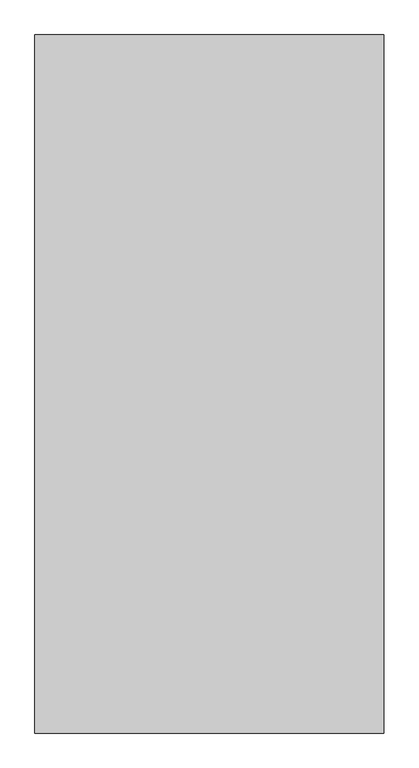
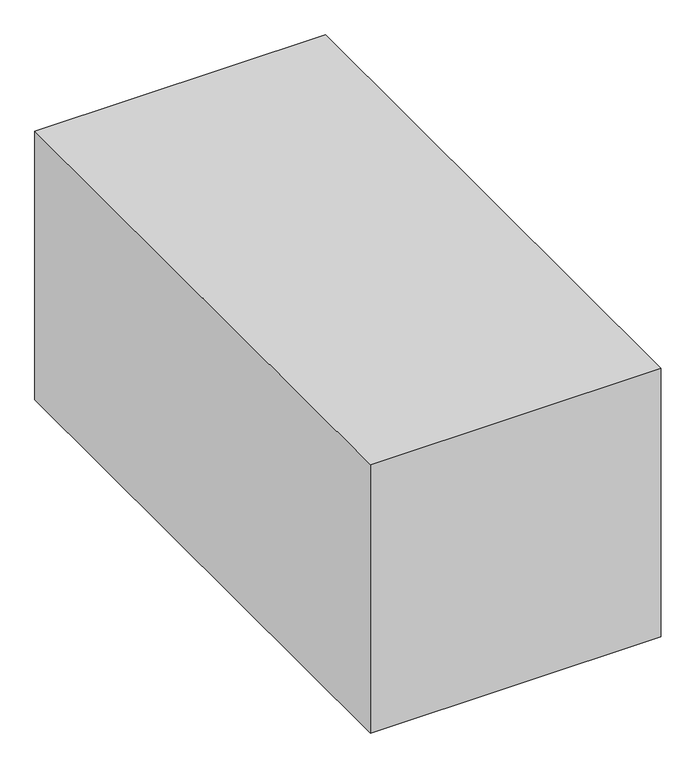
"""IFC4 building model written with IfcOpenShell, lengths in millimetres: member geometry, Импост круглого сечения : Радиус 25 мм 2."""

from ifc_helpers import new_model, si_unit, frame, origin, place, context, project, spatial, polyline, outline, extrude, source, transform, mapped, element, save


def member_fb87e798(model_context):
    return source(origin(), model_context, "Body", "SweptSolid", [
        extrude(outline(polyline([(250.0, 500.0), (250.0, -500.0), (-250.0, -500.0), (-250.0, 500.0), (250.0, 500.0)])), frame((0.0, 0.0, -488.2361077), z_axis=(0.0, 0.0, 1.0), x_axis=(1.0, 0.0, 0.0)), (0.0, 0.0, 1.0), 488.2361077),
    ])


if __name__ == "__main__":
    model = new_model("IFC4")
    model_context = context("Model", 3, world=origin())
    ifc_project = project(units=[si_unit("LENGTHUNIT", "METRE", prefix="MILLI")], contexts=[model_context])
    site = spatial("IfcSite", under=ifc_project)
    building = spatial("IfcBuilding", under=site)
    placement = place(None, origin())
    member_shape = member_fb87e798(model_context)
    element("IfcMember", 1, ObjectType="Импост круглого сечения : Радиус 25 мм 2", at=placement, inside=building, context=model_context, shape_type="MappedRepresentation", body=[
        mapped(member_shape, transform((0.0, 0.0, 0.0), x_axis=(1.0, 0.0, 0.0), y_axis=(0.0, 1.0, 0.0), z_axis=(0.0, 0.0, 1.0))),
    ])
    save(model, "model.ifc")
